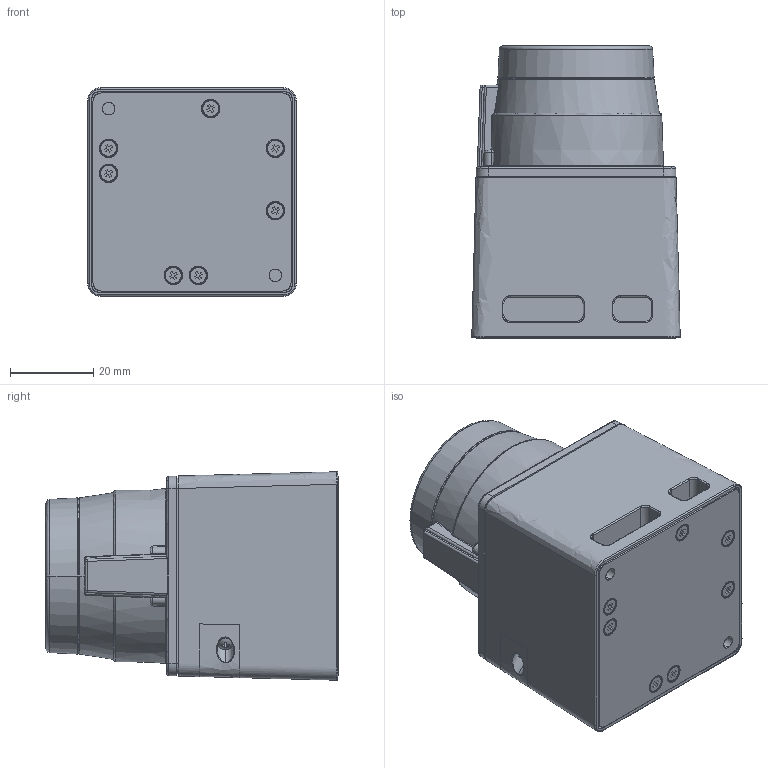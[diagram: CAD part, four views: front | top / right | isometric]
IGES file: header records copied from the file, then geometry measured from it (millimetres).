
Start section: SolidWorks IGES file using analytic representation for surfaces
Global section: file name: C:\Documents and Settings\gijutubu\デスクトップ\VA 組.IGS; native system: SolidWorks 2007; preprocessor: SolidWorks 2007; author: gijutubu; date: 070810.105228; units: millimetre
Bounding box: 49.98 x 70.11 x 49.98 mm (x, y, z)
Surface area: 18283.7 mm2 (no closed solid volume)
Topology: 0 solids, 0 shells, 798 faces, 8335 edges, 8323 vertices
Faces by surface type: bspline 513, revolution 285
